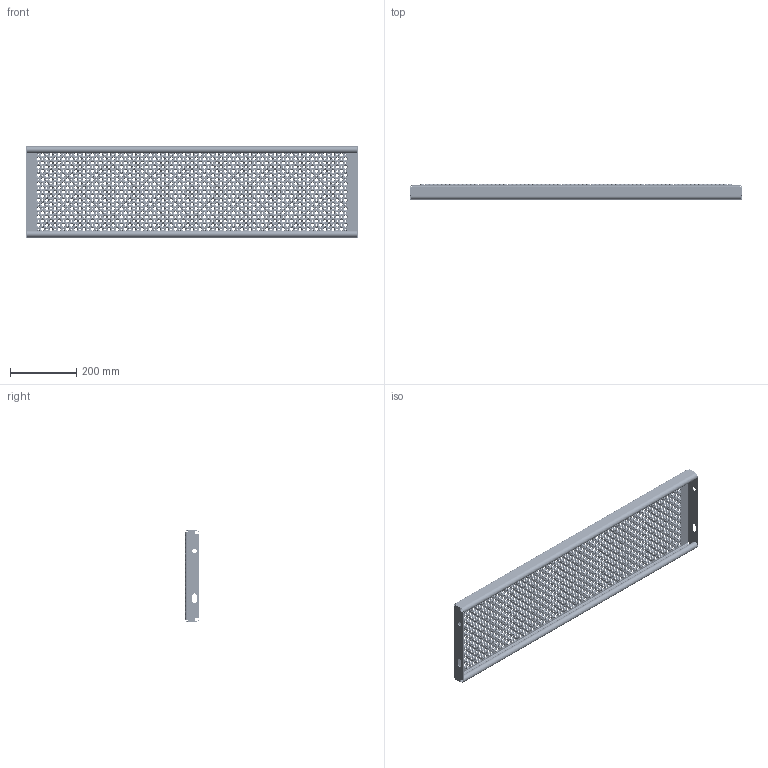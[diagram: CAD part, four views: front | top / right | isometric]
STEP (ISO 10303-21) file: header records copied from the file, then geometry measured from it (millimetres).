
FILE_DESCRIPTION (( 'STEP AP214' ), '1' );
FILE_NAME ('OPTIMO-Tread-Achil-O2-1000x275x45x2-st240-F100420100.STEP', '2021-03-17T13:18:43', ( '' ), ( '' ), 'SwSTEP 2.0', 'SolidWorks 2021', '' );
FILE_SCHEMA (( 'AUTOMOTIVE_DESIGN' ));
Length unit declared in the file: millimetre
Products named in the file (1): OPTIMO-Tread-Achil-O2-1000x275x45x2-st240-F100420100
Bounding box: 1000 x 45 x 275 mm (x, y, z)
Volume: 905060.5 mm3; surface area: 988056.6 mm2
Topology: 1 solids, 1 shells, 15832 faces, 41150 edges, 25320 vertices
Faces by surface type: cone 9450, torus 6300, plane 38, cylinder 36, bspline 8
Entity records: 503764 total; most frequent: DIRECTION 104324, CARTESIAN_POINT 82895, ORIENTED_EDGE 82300, AXIS2_PLACEMENT_3D 47381, EDGE_CURVE 41150, CIRCLE 31556, VERTEX_POINT 25320, EDGE_LOOP 18990
